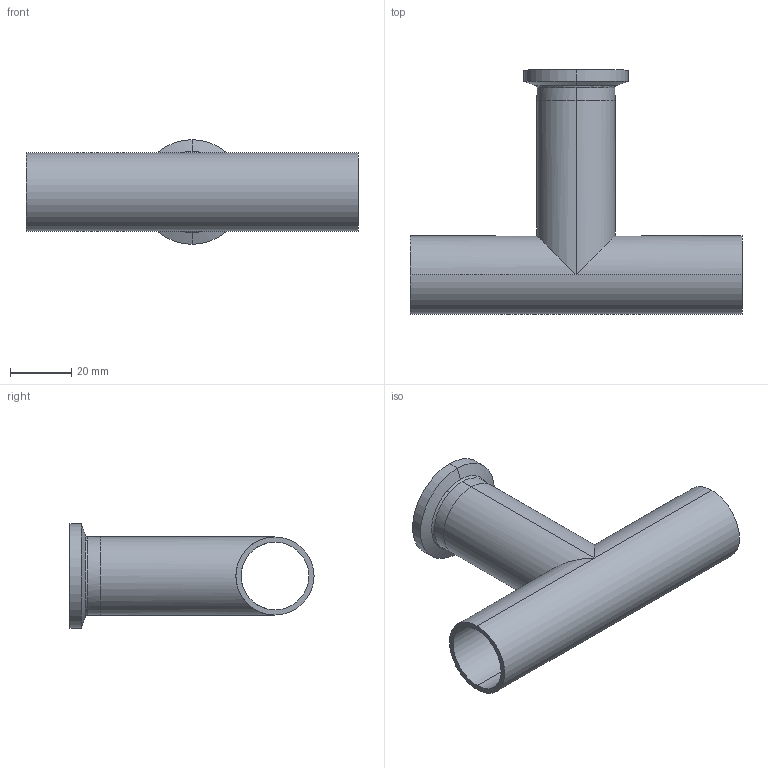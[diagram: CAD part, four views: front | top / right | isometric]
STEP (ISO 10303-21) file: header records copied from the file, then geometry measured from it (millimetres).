
FILE_DESCRIPTION (( 'STEP AP214' ), '1' );
FILE_NAME ('TE7WWC6L1.0-.._Type A.STEP', '2016-05-23T05:35:28', ( 'eran' ), ( '' ), 'SwSTEP 2.0', 'SolidWorks 2016', '' );
FILE_SCHEMA (( 'AUTOMOTIVE_DESIGN' ));
Length unit declared in the file: millimetre
Products named in the file (1): TE7WWC6L1.0-.._Type A
Bounding box: 108 x 79.38 x 34.01 mm (x, y, z)
Volume: 20920.9 mm3; surface area: 25346.5 mm2
Topology: 2 solids, 2 shells, 36 faces, 86 edges, 54 vertices
Faces by surface type: cylinder 18, bspline 8, plane 6, cone 4
Entity records: 1207 total; most frequent: CARTESIAN_POINT 321, DIRECTION 190, ORIENTED_EDGE 172, EDGE_CURVE 86, AXIS2_PLACEMENT_3D 83, VERTEX_POINT 54, CIRCLE 54, EDGE_LOOP 42
